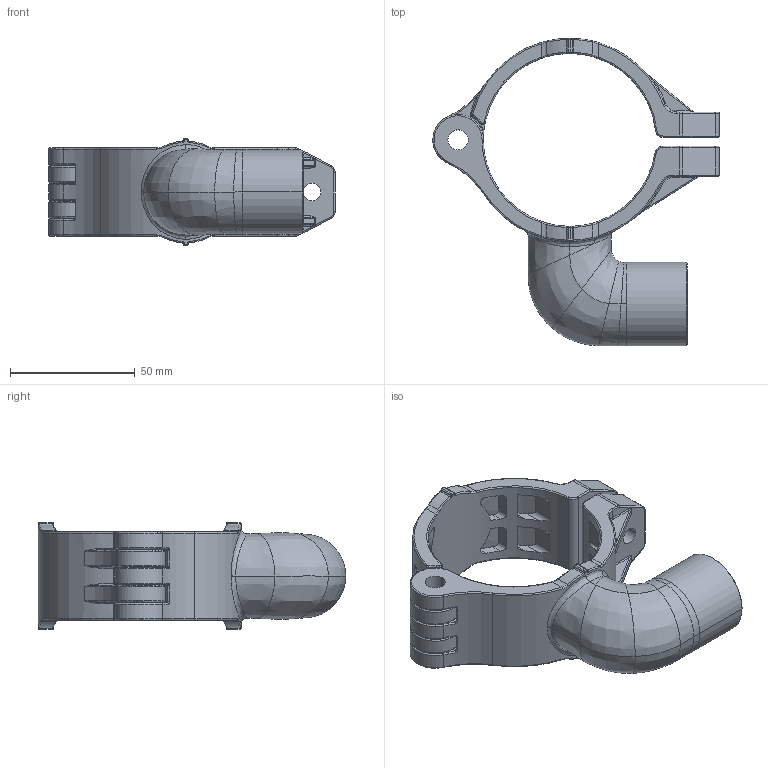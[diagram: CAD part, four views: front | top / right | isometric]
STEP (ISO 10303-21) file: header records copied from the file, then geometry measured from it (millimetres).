
FILE_DESCRIPTION((''),'2;1');
FILE_NAME('AU15611100_ASM_3_ASM','2017-05-15T',('Administrator'),(''),'PRO/ENGINEER BY PARAMETRIC TECHNOLOGY CORPORATION, 2009360','PRO/ENGINEER BY PARAMETRIC TECHNOLOGY CORPORATION, 2009360','');
FILE_SCHEMA(('AUTOMOTIVE_DESIGN_CC2 { 1 2 10303 214 -1 1 5 2 }'));
Length unit declared in the file: millimetre
Products named in the file (3): 2017_6111_00_00_1; 2016_6210_00_01_2; AU15611100_ASM_3_ASM
Assembly tree (2 placements, depth 2):
  AU15611100_ASM_3_ASM
    2017_6111_00_00_1
    2016_6210_00_01_2
Bounding box: 114.74 x 123.15 x 42.81 mm (x, y, z)
Volume: 98885.5 mm3; surface area: 42299 mm2
Topology: 2 solids, 2 shells, 608 faces, 1510 edges, 909 vertices
Faces by surface type: cylinder 243, bspline 131, torus 111, plane 105, sphere 16, cone 2
Entity records: 31672 total; most frequent: CARTESIAN_POINT 13669, ORIENTED_EDGE 2988, DIRECTION 2615, PRESENTATION_STYLE_ASSIGNMENT 1496, STYLED_ITEM 1496, CURVE_STYLE 1494, EDGE_CURVE 1494, AXIS2_PLACEMENT_3D 1090
